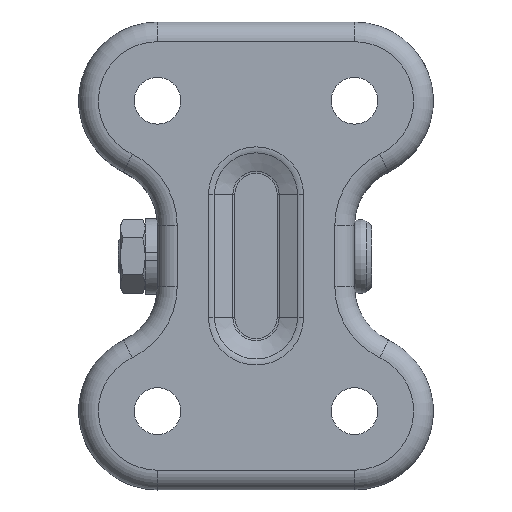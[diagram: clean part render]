
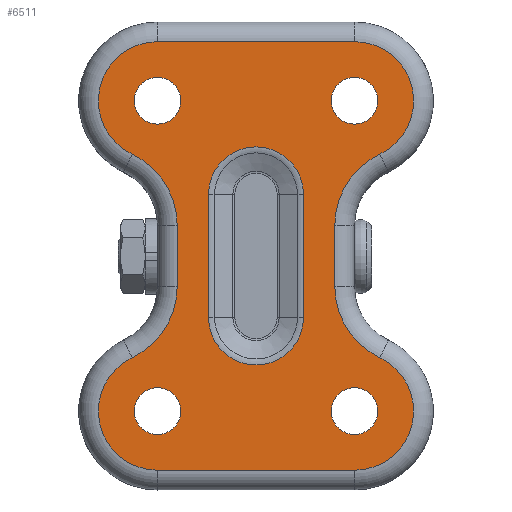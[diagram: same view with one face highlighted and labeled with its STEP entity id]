
A CAD part, top view. The second image highlights one B-rep face of the part: STEP entity #6511.
In plain terms, the highlighted planar face has unit normal (0, 0, 1).
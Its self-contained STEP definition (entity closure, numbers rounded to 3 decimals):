
#5239=CARTESIAN_POINT('',(185.037,-43.5,427.576));
#5240=VERTEX_POINT('',#5239);
#5256=CARTESIAN_POINT('',(225.038,-43.5,427.576));
#5257=VERTEX_POINT('',#5256);
#5265=CARTESIAN_POINT('',(225.038,-43.5,427.576));
#5266=DIRECTION('',(-1.0,0.,0.0));
#5267=VECTOR('',#5266,40.);
#5268=LINE('',#5265,#5267);
#5269=EDGE_CURVE('',#5257,#5240,#5268,.T.);
#5279=CARTESIAN_POINT('',(230.18,20.658,427.576));
#5280=VERTEX_POINT('',#5279);
#5289=CARTESIAN_POINT('',(225.038,43.5,427.576));
#5290=VERTEX_POINT('',#5289);
#5298=CARTESIAN_POINT('',(225.037,31.5,427.576));
#5299=DIRECTION('',(0.0,0.0,-1.));
#5300=DIRECTION('',(0.976,0.22,0.0));
#5301=AXIS2_PLACEMENT_3D('',#5298,#5299,#5300);
#5302=CIRCLE('',#5301,12.);
#5303=EDGE_CURVE('',#5290,#5280,#5302,.T.);
#5313=CARTESIAN_POINT('',(221.037,6.202,427.576));
#5314=VERTEX_POINT('',#5313);
#5324=CARTESIAN_POINT('',(237.037,6.202,427.576));
#5325=DIRECTION('',(0.0,0.0,1.));
#5326=DIRECTION('',(-0.845,0.535,0.0));
#5327=AXIS2_PLACEMENT_3D('',#5324,#5325,#5326);
#5328=CIRCLE('',#5327,16.0);
#5329=EDGE_CURVE('',#5280,#5314,#5328,.T.);
#5339=CARTESIAN_POINT('',(221.037,-6.202,427.576));
#5340=VERTEX_POINT('',#5339);
#5350=CARTESIAN_POINT('',(221.037,6.202,427.576));
#5351=DIRECTION('',(0.0,-1.0,0.0));
#5352=VECTOR('',#5351,12.404);
#5353=LINE('',#5350,#5352);
#5354=EDGE_CURVE('',#5314,#5340,#5353,.T.);
#5364=CARTESIAN_POINT('',(230.18,-20.658,427.576));
#5365=VERTEX_POINT('',#5364);
#5375=CARTESIAN_POINT('',(237.037,-6.202,427.576));
#5376=DIRECTION('',(0.0,0.0,1.));
#5377=DIRECTION('',(-0.845,-0.535,0.0));
#5378=AXIS2_PLACEMENT_3D('',#5375,#5376,#5377);
#5379=CIRCLE('',#5378,16.);
#5380=EDGE_CURVE('',#5340,#5365,#5379,.T.);
#5391=CARTESIAN_POINT('',(225.037,-31.5,427.576));
#5392=DIRECTION('',(0.0,0.0,-1.));
#5393=DIRECTION('',(0.976,-0.22,0.0));
#5394=AXIS2_PLACEMENT_3D('',#5391,#5392,#5393);
#5395=CIRCLE('',#5394,12.);
#5396=EDGE_CURVE('',#5365,#5257,#5395,.T.);
#5408=CARTESIAN_POINT('',(214.674,12.5,427.576));
#5409=VERTEX_POINT('',#5408);
#5418=CARTESIAN_POINT('',(214.674,-12.5,427.576));
#5419=VERTEX_POINT('',#5418);
#5427=CARTESIAN_POINT('',(214.674,-12.5,427.576));
#5428=DIRECTION('',(0.0,1.0,0.0));
#5429=VECTOR('',#5428,25.0);
#5430=LINE('',#5427,#5429);
#5431=EDGE_CURVE('',#5419,#5409,#5430,.T.);
#5441=CARTESIAN_POINT('',(195.401,12.5,427.576));
#5442=VERTEX_POINT('',#5441);
#5452=CARTESIAN_POINT('',(205.037,12.5,427.576));
#5453=DIRECTION('',(0.0,0.0,1.0));
#5454=DIRECTION('',(0.0,1.0,0.0));
#5455=AXIS2_PLACEMENT_3D('',#5452,#5453,#5454);
#5456=CIRCLE('',#5455,9.637);
#5457=EDGE_CURVE('',#5409,#5442,#5456,.T.);
#5467=CARTESIAN_POINT('',(195.401,-12.5,427.576));
#5468=VERTEX_POINT('',#5467);
#5478=CARTESIAN_POINT('',(195.401,12.5,427.576));
#5479=DIRECTION('',(0.0,-1.0,0.0));
#5480=VECTOR('',#5479,25.0);
#5481=LINE('',#5478,#5480);
#5482=EDGE_CURVE('',#5442,#5468,#5481,.T.);
#5493=CARTESIAN_POINT('',(205.037,-12.5,427.576));
#5494=DIRECTION('',(0.0,0.0,1.0));
#5495=DIRECTION('',(0.0,-1.0,0.0));
#5496=AXIS2_PLACEMENT_3D('',#5493,#5494,#5495);
#5497=CIRCLE('',#5496,9.637);
#5498=EDGE_CURVE('',#5468,#5419,#5497,.T.);
#5510=CARTESIAN_POINT('',(185.037,-36.25,427.576));
#5511=VERTEX_POINT('',#5510);
#5512=CARTESIAN_POINT('',(185.037,-31.5,427.576));
#5513=DIRECTION('',(0.0,0.0,-1.0));
#5514=DIRECTION('',(0.0,1.0,0.0));
#5515=AXIS2_PLACEMENT_3D('',#5512,#5513,#5514);
#5516=CIRCLE('',#5515,4.75);
#5517=EDGE_CURVE('',#5511,#5511,#5516,.T.);
#5530=CARTESIAN_POINT('',(185.037,26.75,427.576));
#5531=VERTEX_POINT('',#5530);
#5532=CARTESIAN_POINT('',(185.037,31.5,427.576));
#5533=DIRECTION('',(0.0,0.0,-1.0));
#5534=DIRECTION('',(0.0,1.0,0.0));
#5535=AXIS2_PLACEMENT_3D('',#5532,#5533,#5534);
#5536=CIRCLE('',#5535,4.75);
#5537=EDGE_CURVE('',#5531,#5531,#5536,.T.);
#5550=CARTESIAN_POINT('',(225.037,26.75,427.576));
#5551=VERTEX_POINT('',#5550);
#5552=CARTESIAN_POINT('',(225.037,31.5,427.576));
#5553=DIRECTION('',(0.0,0.0,-1.0));
#5554=DIRECTION('',(0.0,1.0,0.0));
#5555=AXIS2_PLACEMENT_3D('',#5552,#5553,#5554);
#5556=CIRCLE('',#5555,4.75);
#5557=EDGE_CURVE('',#5551,#5551,#5556,.T.);
#5570=CARTESIAN_POINT('',(225.037,-36.25,427.576));
#5571=VERTEX_POINT('',#5570);
#5572=CARTESIAN_POINT('',(225.037,-31.5,427.576));
#5573=DIRECTION('',(0.0,0.0,-1.0));
#5574=DIRECTION('',(0.0,1.0,0.0));
#5575=AXIS2_PLACEMENT_3D('',#5572,#5573,#5574);
#5576=CIRCLE('',#5575,4.75);
#5577=EDGE_CURVE('',#5571,#5571,#5576,.T.);
#5599=CARTESIAN_POINT('',(185.037,43.5,427.576));
#5600=VERTEX_POINT('',#5599);
#5608=CARTESIAN_POINT('',(185.037,43.5,427.576));
#5609=DIRECTION('',(1.0,0.0,0.0));
#5610=VECTOR('',#5609,40.);
#5611=LINE('',#5608,#5610);
#5612=EDGE_CURVE('',#5600,#5290,#5611,.T.);
#5969=CARTESIAN_POINT('',(179.894,-20.658,427.576));
#5970=VERTEX_POINT('',#5969);
#5988=CARTESIAN_POINT('',(185.037,-31.5,427.576));
#5989=DIRECTION('',(0.0,0.0,-1.));
#5990=DIRECTION('',(-0.976,-0.22,0.0));
#5991=AXIS2_PLACEMENT_3D('',#5988,#5989,#5990);
#5992=CIRCLE('',#5991,12.);
#5993=EDGE_CURVE('',#5240,#5970,#5992,.T.);
#6445=CARTESIAN_POINT('',(247.773,-54.072,427.576));
#6446=DIRECTION('',(0.0,0.0,-1.0));
#6447=DIRECTION('',(-1.0,0.0,0.0));
#6448=AXIS2_PLACEMENT_3D('',#6445,#6446,#6447);
#6449=PLANE('',#6448);
#6450=ORIENTED_EDGE('',*,*,#5396,.F.);
#6451=ORIENTED_EDGE('',*,*,#5380,.F.);
#6452=ORIENTED_EDGE('',*,*,#5354,.F.);
#6453=ORIENTED_EDGE('',*,*,#5329,.F.);
#6454=ORIENTED_EDGE('',*,*,#5303,.F.);
#6455=ORIENTED_EDGE('',*,*,#5612,.F.);
#6456=CARTESIAN_POINT('',(179.894,20.658,427.576));
#6457=VERTEX_POINT('',#6456);
#6458=CARTESIAN_POINT('',(185.037,31.5,427.576));
#6459=DIRECTION('',(0.0,0.0,-1.0));
#6460=DIRECTION('',(-0.976,0.22,0.0));
#6461=AXIS2_PLACEMENT_3D('',#6458,#6459,#6460);
#6462=CIRCLE('',#6461,12.);
#6463=EDGE_CURVE('',#6457,#5600,#6462,.T.);
#6464=ORIENTED_EDGE('',*,*,#6463,.F.);
#6465=CARTESIAN_POINT('',(189.037,6.202,427.576));
#6466=VERTEX_POINT('',#6465);
#6467=CARTESIAN_POINT('',(173.037,6.202,427.576));
#6468=DIRECTION('',(0.0,0.0,1.0));
#6469=DIRECTION('',(0.845,0.535,0.0));
#6470=AXIS2_PLACEMENT_3D('',#6467,#6468,#6469);
#6471=CIRCLE('',#6470,16.0);
#6472=EDGE_CURVE('',#6466,#6457,#6471,.T.);
#6473=ORIENTED_EDGE('',*,*,#6472,.F.);
#6474=CARTESIAN_POINT('',(189.037,-6.202,427.576));
#6475=VERTEX_POINT('',#6474);
#6476=CARTESIAN_POINT('',(189.037,-6.202,427.576));
#6477=DIRECTION('',(0.0,1.0,0.0));
#6478=VECTOR('',#6477,12.404);
#6479=LINE('',#6476,#6478);
#6480=EDGE_CURVE('',#6475,#6466,#6479,.T.);
#6481=ORIENTED_EDGE('',*,*,#6480,.F.);
#6482=CARTESIAN_POINT('',(173.037,-6.202,427.576));
#6483=DIRECTION('',(0.0,0.0,1.));
#6484=DIRECTION('',(0.845,-0.535,0.0));
#6485=AXIS2_PLACEMENT_3D('',#6482,#6483,#6484);
#6486=CIRCLE('',#6485,16.0);
#6487=EDGE_CURVE('',#5970,#6475,#6486,.T.);
#6488=ORIENTED_EDGE('',*,*,#6487,.F.);
#6489=ORIENTED_EDGE('',*,*,#5993,.F.);
#6490=ORIENTED_EDGE('',*,*,#5269,.F.);
#6491=EDGE_LOOP('',(#6450,#6451,#6452,#6453,#6454,#6455,#6464,#6473,#6481,#6488,#6489,#6490));
#6492=FACE_OUTER_BOUND('',#6491,.T.);
#6493=ORIENTED_EDGE('',*,*,#5557,.T.);
#6494=EDGE_LOOP('',(#6493));
#6495=FACE_BOUND('',#6494,.T.);
#6496=ORIENTED_EDGE('',*,*,#5537,.T.);
#6497=EDGE_LOOP('',(#6496));
#6498=FACE_BOUND('',#6497,.T.);
#6499=ORIENTED_EDGE('',*,*,#5517,.T.);
#6500=EDGE_LOOP('',(#6499));
#6501=FACE_BOUND('',#6500,.T.);
#6502=ORIENTED_EDGE('',*,*,#5498,.F.);
#6503=ORIENTED_EDGE('',*,*,#5482,.F.);
#6504=ORIENTED_EDGE('',*,*,#5457,.F.);
#6505=ORIENTED_EDGE('',*,*,#5431,.F.);
#6506=EDGE_LOOP('',(#6502,#6503,#6504,#6505));
#6507=FACE_BOUND('',#6506,.T.);
#6508=ORIENTED_EDGE('',*,*,#5577,.T.);
#6509=EDGE_LOOP('',(#6508));
#6510=FACE_BOUND('',#6509,.T.);
#6511=ADVANCED_FACE('',(#6492,#6495,#6498,#6501,#6507,#6510),#6449,.F.);
